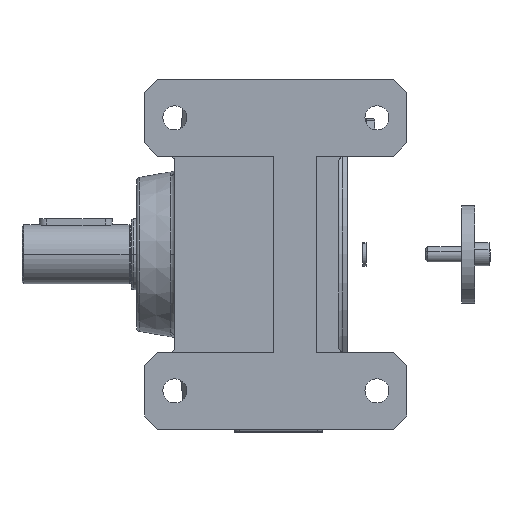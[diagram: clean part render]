
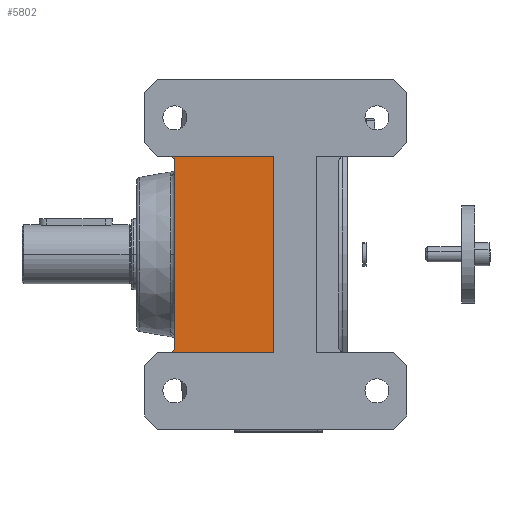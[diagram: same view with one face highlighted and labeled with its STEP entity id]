
A CAD part, front view. The second image highlights one B-rep face of the part: STEP entity #5802.
In plain terms, the highlighted planar face has unit normal (0, -1, 0).
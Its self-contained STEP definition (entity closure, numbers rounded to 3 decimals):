
#5802 = ADVANCED_FACE ( 'NONE', ( #7200 ), #23231, .F. ) ;
#7200 = FACE_OUTER_BOUND ( 'NONE', #33005, .T. ) ;
#7203 = AXIS2_PLACEMENT_3D ( 'NONE', #23232, #23233, #23234 ) ;
#23231 = PLANE ( 'NONE',  #7203 ) ;
#23232 = CARTESIAN_POINT ( 'NONE',  ( 212.5, -111., -90. ) ) ;
#23233 = DIRECTION ( 'NONE',  ( 0., 1., 0. ) ) ;
#23234 = DIRECTION ( 'NONE',  ( -1., 0., 0. ) ) ;
#28951 = LINE ( 'NONE', #28952, #46852 ) ;
#28952 = CARTESIAN_POINT ( 'NONE',  ( 212.5, -111., 90. ) ) ;
#28953 = DIRECTION ( 'NONE',  ( -1., 0., 0. ) ) ;
#33005 = EDGE_LOOP ( 'NONE', ( #33151, #33149, #33150, #33148, #33147, #33146 ) ) ;
#33146 = ORIENTED_EDGE ( 'NONE', *, *, #37803, .F. ) ;
#33147 = ORIENTED_EDGE ( 'NONE', *, *, #37804, .T. ) ;
#33148 = ORIENTED_EDGE ( 'NONE', *, *, #37805, .T. ) ;
#33149 = ORIENTED_EDGE ( 'NONE', *, *, #37808, .T. ) ;
#33150 = ORIENTED_EDGE ( 'NONE', *, *, #37806, .T. ) ;
#33151 = ORIENTED_EDGE ( 'NONE', *, *, #37807, .F. ) ;
#37464 = VERTEX_POINT ( 'NONE', #47485 ) ;
#37471 = VERTEX_POINT ( 'NONE', #47492 ) ;
#37472 = VERTEX_POINT ( 'NONE', #47493 ) ;
#37473 = VERTEX_POINT ( 'NONE', #47494 ) ;
#37803 = EDGE_CURVE ( 'NONE', #53077, #37473, #48415, .T. ) ;
#37804 = EDGE_CURVE ( 'NONE', #37472, #37473, #42284, .T. ) ;
#37805 = EDGE_CURVE ( 'NONE', #37471, #37472, #48421, .T. ) ;
#37806 = EDGE_CURVE ( 'NONE', #53078, #37471, #42286, .T. ) ;
#37807 = EDGE_CURVE ( 'NONE', #37464, #53077, #48427, .T. ) ;
#37808 = EDGE_CURVE ( 'NONE', #37464, #53078, #28951, .T. ) ;
#42284 = CIRCLE ( 'NONE', #46844, 5. ) ;
#42286 = CIRCLE ( 'NONE', #46848, 5. ) ;
#46844 = AXIS2_PLACEMENT_3D ( 'NONE', #48414, #48418, #48419 ) ;
#46847 = VECTOR ( 'NONE', #48417, 1000. ) ;
#46848 = AXIS2_PLACEMENT_3D ( 'NONE', #48420, #48424, #48425 ) ;
#46849 = VECTOR ( 'NONE', #48423, 1000. ) ;
#46850 = VECTOR ( 'NONE', #48429, 1000. ) ;
#46852 = VECTOR ( 'NONE', #28953, 1000. ) ;
#47485 = CARTESIAN_POINT ( 'NONE',  ( 90., -111., 90. ) ) ;
#47492 = CARTESIAN_POINT ( 'NONE',  ( 0., -111., 85. ) ) ;
#47493 = CARTESIAN_POINT ( 'NONE',  ( 0., -111., -85. ) ) ;
#47494 = CARTESIAN_POINT ( 'NONE',  ( -5., -111., -90. ) ) ;
#48414 = CARTESIAN_POINT ( 'NONE',  ( -5., -111., -85. ) ) ;
#48415 = LINE ( 'NONE', #48416, #46847 ) ;
#48416 = CARTESIAN_POINT ( 'NONE',  ( 212.5, -111., -90. ) ) ;
#48417 = DIRECTION ( 'NONE',  ( -1., 0., 0. ) ) ;
#48418 = DIRECTION ( 'NONE',  ( 0., 1., 0. ) ) ;
#48419 = DIRECTION ( 'NONE',  ( -1., 0., 0. ) ) ;
#48420 = CARTESIAN_POINT ( 'NONE',  ( -5., -111., 85. ) ) ;
#48421 = LINE ( 'NONE', #48422, #46849 ) ;
#48422 = CARTESIAN_POINT ( 'NONE',  ( 0., -111., -90. ) ) ;
#48423 = DIRECTION ( 'NONE',  ( 0., 0., -1. ) ) ;
#48424 = DIRECTION ( 'NONE',  ( 0., 1., 0. ) ) ;
#48425 = DIRECTION ( 'NONE',  ( -1., 0., 0. ) ) ;
#48427 = LINE ( 'NONE', #48428, #46850 ) ;
#48428 = CARTESIAN_POINT ( 'NONE',  ( 90., -111., 0. ) ) ;
#48429 = DIRECTION ( 'NONE',  ( 0., 0., -1. ) ) ;
#51239 = CARTESIAN_POINT ( 'NONE',  ( 90., -111., -90. ) ) ;
#51240 = CARTESIAN_POINT ( 'NONE',  ( -5., -111., 90. ) ) ;
#53077 = VERTEX_POINT ( 'NONE', #51239 ) ;
#53078 = VERTEX_POINT ( 'NONE', #51240 ) ;
